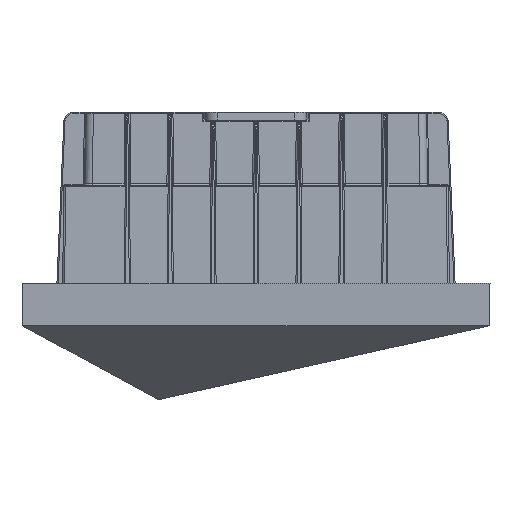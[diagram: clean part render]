
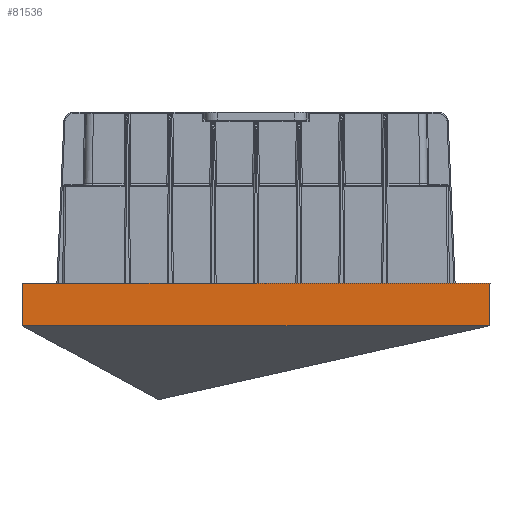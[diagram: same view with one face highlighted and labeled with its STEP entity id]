
A CAD part, front view. The second image highlights one B-rep face of the part: STEP entity #81536.
In plain terms, the highlighted planar face has unit normal (0, -1, -0.018) as drawn and (0, -1, 0.017) by its records, which use the part's own axes.
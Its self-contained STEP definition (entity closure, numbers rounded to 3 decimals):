
#75919=DIRECTION('',(-1.,0.,0.));
#75920=VECTOR('',#75919,119.381);
#75921=CARTESIAN_POINT('',(58.601,-59.832,
3.909));
#75922=LINE('',#75921,#75920);
#75963=DIRECTION('',(0.017,0.017,1.));
#75964=VECTOR('',#75963,10.949);
#75965=CARTESIAN_POINT('',(-61.247,-60.022,
-7.096));
#75966=LINE('',#75965,#75964);
#75967=DIRECTION('',(0.976,0.,0.218));
#75968=VECTOR('',#75967,0.282);
#75969=CARTESIAN_POINT('',(-61.056,-59.831,
3.85));
#75970=LINE('',#75969,#75968);
#75971=DIRECTION('',(-0.018,0.017,1.));
#75972=VECTOR('',#75971,11.009);
#75973=CARTESIAN_POINT('',(58.796,-60.022,
-7.096));
#75974=LINE('',#75973,#75972);
#76003=DIRECTION('',(1.,0.,0.));
#76004=VECTOR('',#76003,120.044);
#76005=CARTESIAN_POINT('',(-61.247,-60.022,
-7.096));
#76006=LINE('',#76005,#76004);
#80627=CARTESIAN_POINT('',(58.601,-59.832,
3.909));
#80629=VERTEX_POINT('',#80627);
#80631=CARTESIAN_POINT('',(-60.781,-59.831,
3.912));
#80632=VERTEX_POINT('',#80631);
#80637=CARTESIAN_POINT('',(-61.056,-59.831,
3.85));
#80638=VERTEX_POINT('',#80637);
#81428=CARTESIAN_POINT('',(58.796,-60.022,
-7.096));
#81429=VERTEX_POINT('',#81428);
#81430=CARTESIAN_POINT('',(-61.247,-60.022,
-7.096));
#81431=VERTEX_POINT('',#81430);
#81521=CARTESIAN_POINT('',(-63.966,-59.971,
-4.188));
#81522=DIRECTION('',(0.,1.,-0.017));
#81523=DIRECTION('',(1.,0.,0.));
#81524=AXIS2_PLACEMENT_3D('',#81521,#81522,#81523);
#81525=PLANE('',#81524);
#81527=ORIENTED_EDGE('',*,*,#81526,.F.);
#81529=ORIENTED_EDGE('',*,*,#81528,.F.);
#81531=ORIENTED_EDGE('',*,*,#81530,.T.);
#81532=ORIENTED_EDGE('',*,*,#81499,.T.);
#81533=ORIENTED_EDGE('',*,*,#81471,.F.);
#81534=EDGE_LOOP('',(#81527,#81529,#81531,#81532,#81533));
#81535=FACE_OUTER_BOUND('',#81534,.F.);
#81471=EDGE_CURVE('',#80629,#80632,#75922,.T.);
#81499=EDGE_CURVE('',#80638,#80632,#75970,.T.);
#81526=EDGE_CURVE('',#81429,#80629,#75974,.T.);
#81528=EDGE_CURVE('',#81431,#81429,#76006,.T.);
#81530=EDGE_CURVE('',#81431,#80638,#75966,.T.);
#81536=ADVANCED_FACE('',(#81535),#81525,.F.);
